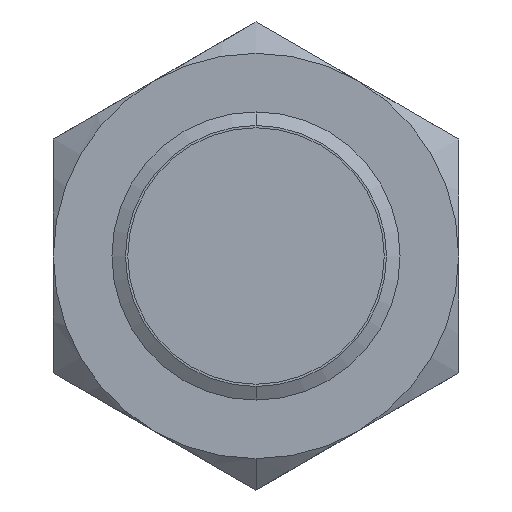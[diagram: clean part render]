
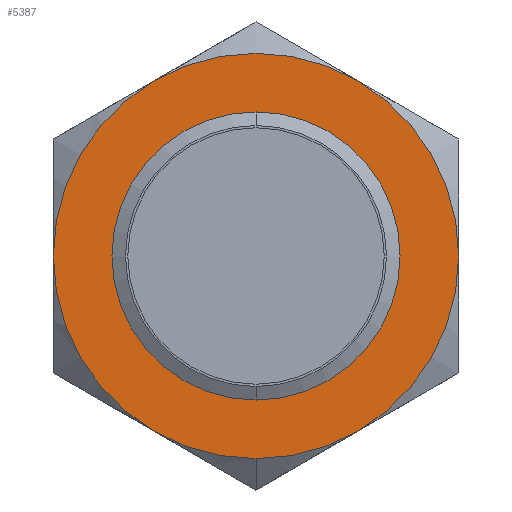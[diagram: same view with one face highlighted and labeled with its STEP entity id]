
A CAD part, left-side view. The second image highlights one B-rep face of the part: STEP entity #5387.
In plain terms, the highlighted planar face has unit normal (-1, 0, 0).
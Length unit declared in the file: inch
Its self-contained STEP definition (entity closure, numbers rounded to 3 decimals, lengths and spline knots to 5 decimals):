
#332 = FACE_BOUND ( 'NONE', #5139, .T. ) ;
#333 = FACE_OUTER_BOUND ( 'NONE', #3768, .T. ) ;
#334 = PLANE ( 'NONE',  #335 ) ;
#335 = AXIS2_PLACEMENT_3D ( 'NONE', #336, #337, #338 ) ;
#336 = CARTESIAN_POINT ( 'NONE',  ( 0.51896, 0., 0. ) ) ;
#337 = DIRECTION ( 'NONE',  ( -1., 0., 0. ) ) ;
#338 = DIRECTION ( 'NONE',  ( 0., 0., 1. ) ) ;
#928 = CARTESIAN_POINT ( 'NONE',  ( 0.51896, 0., 0.236 ) ) ;
#1249 = CIRCLE ( 'NONE', #1250, 0.236 ) ;
#1250 = AXIS2_PLACEMENT_3D ( 'NONE', #1251, #1252, #1253 ) ;
#1251 = CARTESIAN_POINT ( 'NONE',  ( 0.51896, 0., 0. ) ) ;
#1252 = DIRECTION ( 'NONE',  ( 1., 0., 0. ) ) ;
#1253 = DIRECTION ( 'NONE',  ( 0., 0., 1. ) ) ;
#1545 = CIRCLE ( 'NONE', #1546, 0.332 ) ;
#1546 = AXIS2_PLACEMENT_3D ( 'NONE', #1547, #1548, #1551 ) ;
#1547 = CARTESIAN_POINT ( 'NONE',  ( 0.51896, 0., 0. ) ) ;
#1548 = DIRECTION ( 'NONE',  ( -1., 0., 0. ) ) ;
#1551 = DIRECTION ( 'NONE',  ( 0., 0., -1. ) ) ;
#2002 = VERTEX_POINT ( 'NONE', #10775 ) ;
#2095 = CARTESIAN_POINT ( 'NONE',  ( 0.51896, 0., -0.236 ) ) ;
#2248 = VERTEX_POINT ( 'NONE', #10823 ) ;
#2376 = CARTESIAN_POINT ( 'NONE',  ( 0.51896, 0.166, -0.28752 ) ) ;
#2469 = EDGE_CURVE ( 'NONE', #2248, #2002, #10864, .T. ) ;
#2688 = CIRCLE ( 'NONE', #2689, 0.332 ) ;
#2689 = AXIS2_PLACEMENT_3D ( 'NONE', #2693, #2694, #2695 ) ;
#2693 = CARTESIAN_POINT ( 'NONE',  ( 0.51896, 0., 0. ) ) ;
#2694 = DIRECTION ( 'NONE',  ( -1., 0., 0. ) ) ;
#2695 = DIRECTION ( 'NONE',  ( 0., 0., -1. ) ) ;
#3592 = CARTESIAN_POINT ( 'NONE',  ( 0.51896, 0.332, 0. ) ) ;
#3711 = CIRCLE ( 'NONE', #3712, 0.236 ) ;
#3712 = AXIS2_PLACEMENT_3D ( 'NONE', #3713, #3714, #3715 ) ;
#3713 = CARTESIAN_POINT ( 'NONE',  ( 0.51896, 0., 0. ) ) ;
#3714 = DIRECTION ( 'NONE',  ( 1., 0., 0. ) ) ;
#3715 = DIRECTION ( 'NONE',  ( 0., 0., 1. ) ) ;
#3768 = EDGE_LOOP ( 'NONE', ( #8888, #8669, #8433, #8211, #10018, #9621, #9445 ) ) ;
#3781 = CIRCLE ( 'NONE', #3782, 0.332 ) ;
#3782 = AXIS2_PLACEMENT_3D ( 'NONE', #3783, #3784, #3788 ) ;
#3783 = CARTESIAN_POINT ( 'NONE',  ( 0.51896, 0., 0. ) ) ;
#3784 = DIRECTION ( 'NONE',  ( -1., 0., 0. ) ) ;
#3788 = DIRECTION ( 'NONE',  ( 0., 0., -1. ) ) ;
#4026 = ORIENTED_EDGE ( 'NONE', *, *, #10974, .T. ) ;
#4385 = CARTESIAN_POINT ( 'NONE',  ( 0.51896, 0.166, 0.28752 ) ) ;
#4461 = CIRCLE ( 'NONE', #4462, 0.332 ) ;
#4462 = AXIS2_PLACEMENT_3D ( 'NONE', #4463, #4467, #4468 ) ;
#4463 = CARTESIAN_POINT ( 'NONE',  ( 0.51896, 0., 0. ) ) ;
#4467 = DIRECTION ( 'NONE',  ( -1., 0., 0. ) ) ;
#4468 = DIRECTION ( 'NONE',  ( 0., 0., -1. ) ) ;
#4585 = ORIENTED_EDGE ( 'NONE', *, *, #9472, .T. ) ;
#5014 = CARTESIAN_POINT ( 'NONE',  ( 0.51896, -0.166, 0.28752 ) ) ;
#5107 = CIRCLE ( 'NONE', #5108, 0.332 ) ;
#5108 = AXIS2_PLACEMENT_3D ( 'NONE', #5109, #5110, #5111 ) ;
#5109 = CARTESIAN_POINT ( 'NONE',  ( 0.51896, 0., 0. ) ) ;
#5110 = DIRECTION ( 'NONE',  ( -1., 0., 0. ) ) ;
#5111 = DIRECTION ( 'NONE',  ( 0., 0., -1. ) ) ;
#5139 = EDGE_LOOP ( 'NONE', ( #4585, #4026 ) ) ;
#5387 = ADVANCED_FACE ( 'NONE', ( #332, #333 ), #334, .T. ) ;
#5454 = CARTESIAN_POINT ( 'NONE',  ( 0.51896, -0.332, 0. ) ) ;
#5550 = CIRCLE ( 'NONE', #5551, 0.332 ) ;
#5551 = AXIS2_PLACEMENT_3D ( 'NONE', #5552, #5553, #5561 ) ;
#5552 = CARTESIAN_POINT ( 'NONE',  ( 0.51896, 0., 0. ) ) ;
#5553 = DIRECTION ( 'NONE',  ( -1., 0., 0. ) ) ;
#5561 = DIRECTION ( 'NONE',  ( 0., 0., -1. ) ) ;
#8094 = VERTEX_POINT ( 'NONE', #3592 ) ;
#8133 = EDGE_CURVE ( 'NONE', #8315, #8094, #3781, .T. ) ;
#8211 = ORIENTED_EDGE ( 'NONE', *, *, #8133, .T. ) ;
#8315 = VERTEX_POINT ( 'NONE', #4385 ) ;
#8353 = EDGE_CURVE ( 'NONE', #8551, #8315, #4461, .T. ) ;
#8433 = ORIENTED_EDGE ( 'NONE', *, *, #8353, .T. ) ;
#8551 = VERTEX_POINT ( 'NONE', #5014 ) ;
#8594 = EDGE_CURVE ( 'NONE', #8771, #8551, #5107, .T. ) ;
#8669 = ORIENTED_EDGE ( 'NONE', *, *, #8594, .T. ) ;
#8771 = VERTEX_POINT ( 'NONE', #5454 ) ;
#8818 = EDGE_CURVE ( 'NONE', #2002, #8771, #5550, .T. ) ;
#8888 = ORIENTED_EDGE ( 'NONE', *, *, #8818, .T. ) ;
#9418 = VERTEX_POINT ( 'NONE', #928 ) ;
#9445 = ORIENTED_EDGE ( 'NONE', *, *, #2469, .T. ) ;
#9472 = EDGE_CURVE ( 'NONE', #9418, #9689, #1249, .T. ) ;
#9565 = EDGE_CURVE ( 'NONE', #9729, #2248, #1545, .T. ) ;
#9621 = ORIENTED_EDGE ( 'NONE', *, *, #9565, .T. ) ;
#9689 = VERTEX_POINT ( 'NONE', #2095 ) ;
#9729 = VERTEX_POINT ( 'NONE', #2376 ) ;
#9786 = EDGE_CURVE ( 'NONE', #8094, #9729, #2688, .T. ) ;
#10018 = ORIENTED_EDGE ( 'NONE', *, *, #9786, .T. ) ;
#10775 = CARTESIAN_POINT ( 'NONE',  ( 0.51896, -0.166, -0.28752 ) ) ;
#10823 = CARTESIAN_POINT ( 'NONE',  ( 0.51896, 0., -0.332 ) ) ;
#10864 = CIRCLE ( 'NONE', #10865, 0.332 ) ;
#10865 = AXIS2_PLACEMENT_3D ( 'NONE', #10866, #10867, #10868 ) ;
#10866 = CARTESIAN_POINT ( 'NONE',  ( 0.51896, 0., 0. ) ) ;
#10867 = DIRECTION ( 'NONE',  ( -1., 0., 0. ) ) ;
#10868 = DIRECTION ( 'NONE',  ( 0., 0., -1. ) ) ;
#10974 = EDGE_CURVE ( 'NONE', #9689, #9418, #3711, .T. ) ;
